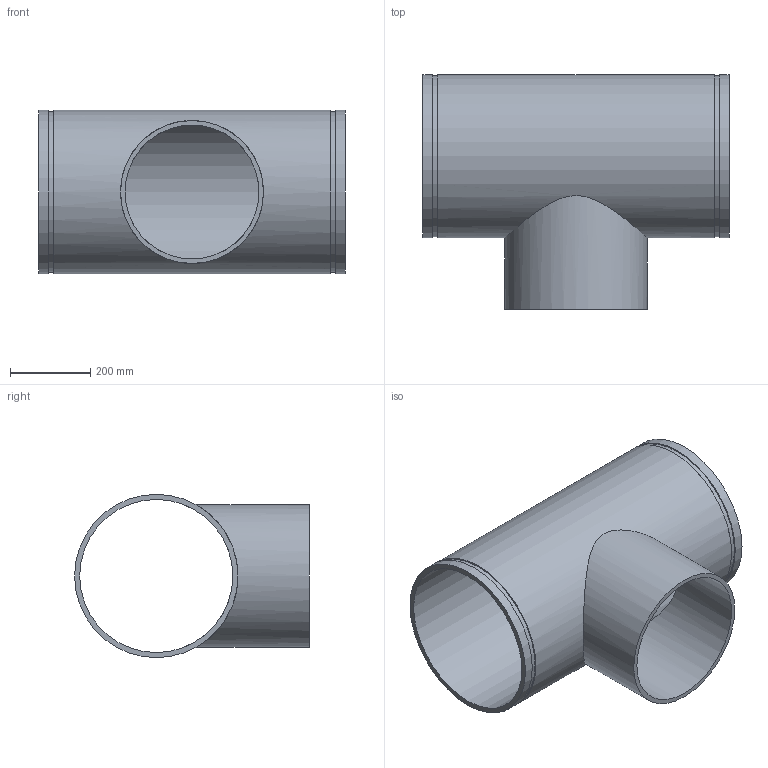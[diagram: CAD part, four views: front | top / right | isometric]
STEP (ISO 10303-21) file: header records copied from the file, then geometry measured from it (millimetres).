
FILE_DESCRIPTION(/* description */ ('VIC REDUCING TEE No 29T FFT (OGSxMPT)','CAx-IF Rec.Pracs.---Representation and Presentation of Product Manufacturing Information (PMI)---4.0---2014-10-13'),/* implementation_level */ '2;1');
FILE_NAME(/* name */ 'C:\Users\kkamble\AppData\Roaming\Autodesk\ApplicationPlugins\Back Up\Victaulic_IPS_Tee Reducing_No 29T FFT (OGSxMPT)\Victaulic_IPS_Tee Reducing_No 29T FFT (OGSxMPT)_16.0x14.0 (400x350).stp',/* time_stamp */ '2020-09-16T22:40:06+05:00',/* author */ ('CORINNE GRAY'),/* organization */ ('Victaulic'),/* preprocessor_version */ 'ST-DEVELOPER v17.2',/* originating_system */ 'Autodesk Inventor 2019',/* authorisation */ '');
FILE_SCHEMA (('AP242_MANAGED_MODEL_BASED_3D_ENGINEERING_MIM_LF { 1 0 10303 442 1 1 4 }'));
Length unit declared in the file: inch
Products named in the file (1): 29 FFT-16.0x14.0
Bounding box: 762 x 584.2 x 406.4 mm (x, y, z)
Volume: 13291704.9 mm3; surface area: 2226889.6 mm2
Topology: 1 solids, 1 shells, 15 faces, 32 edges, 24 vertices
Faces by surface type: cylinder 8, plane 7
Full cylindrical faces by diameter (mm): 333.4 x1, 355.6 x1, 381 x1, 400.837 x2, 406.4 x3
Entity records: 781 total; most frequent: CARTESIAN_POINT 293, DIRECTION 106, ORIENTED_EDGE 64, AXIS2_PLACEMENT_3D 49, EDGE_CURVE 32, EDGE_LOOP 24, VERTEX_POINT 24, CIRCLE 20
